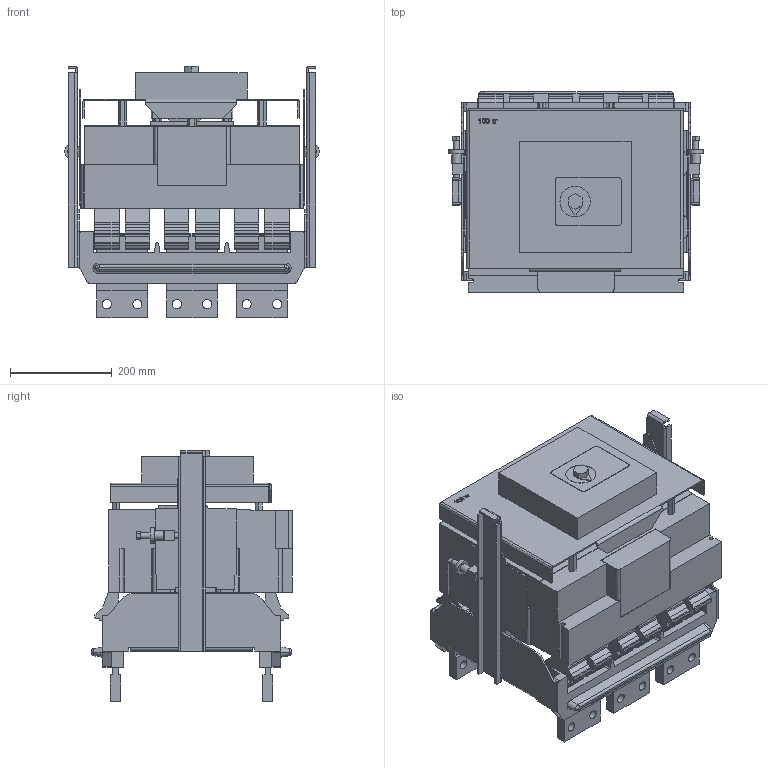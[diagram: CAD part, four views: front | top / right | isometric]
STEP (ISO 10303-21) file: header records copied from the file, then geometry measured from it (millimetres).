
FILE_DESCRIPTION (( 'STEP AP214' ), '1' );
FILE_NAME ('ÂÀ 53(55)-43 âûäâèæíîå èñïîëíåíèå ñ ýëåêòðîìàãíèòíûì ïðèâîäîì 1600À.STEP', '2023-02-09T10:31:04', ( '' ), ( '' ), 'SwSTEP 2.0', 'SolidWorks 2018', '' );
FILE_SCHEMA (( 'AUTOMOTIVE_DESIGN' ));
Length unit declared in the file: millimetre
Products named in the file (1): ÂÀ 53(55)-43 âûäâèæíîå èñïîëíåíèå ñ ýëåêòðîìàãíèòíûì ïðèâîäîì 1600À
Bounding box: 501 x 395.2 x 494.6 mm (x, y, z)
Volume: 33491821.8 mm3; surface area: 2114434.9 mm2
Topology: 1 solids, 1 shells, 1220 faces, 3705 edges, 2468 vertices
Faces by surface type: plane 886, cylinder 322, bspline 10, cone 2
Full cylindrical faces by diameter (mm): 12 x6, 12.2 x2, 13.2 x4, 18 x14, 30 x2, 60 x1
Entity records: 41974 total; most frequent: CARTESIAN_POINT 8225, ORIENTED_EDGE 7314, DIRECTION 6694, EDGE_CURVE 3657, VECTOR 2900, LINE 2900, VERTEX_POINT 2451, AXIS2_PLACEMENT_3D 1897
